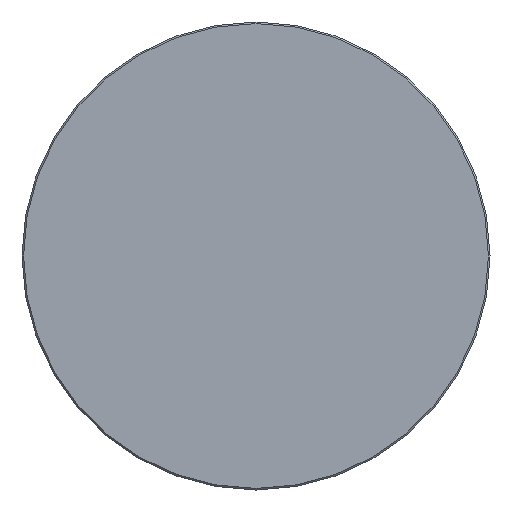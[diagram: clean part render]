
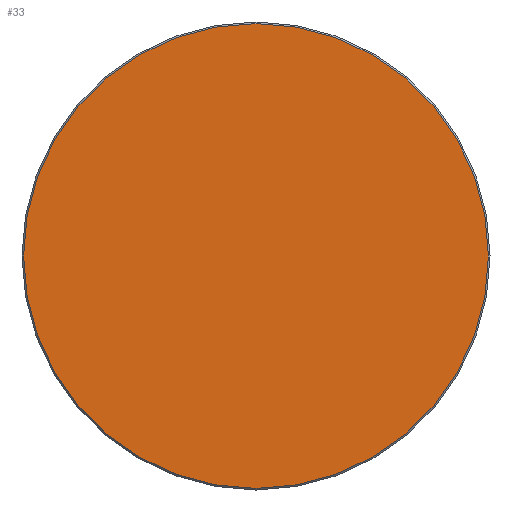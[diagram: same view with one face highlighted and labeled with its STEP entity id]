
A CAD part, left-side view. The second image highlights one B-rep face of the part: STEP entity #33.
In plain terms, the highlighted planar face has unit normal (-1, 0, 0).
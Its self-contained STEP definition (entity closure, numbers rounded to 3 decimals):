
#3 = DIRECTION ( 'NONE',  ( 0., -1., 0. ) ) ;
#33 = ADVANCED_FACE ( 'NONE', ( #518 ), #517, .T. ) ;
#125 = EDGE_CURVE ( 'NONE', #771, #356, #1417, .T. ) ;
#356 = VERTEX_POINT ( 'NONE', #1028 ) ;
#383 = EDGE_LOOP ( 'NONE', ( #441, #436 ) ) ;
#436 = ORIENTED_EDGE ( 'NONE', *, *, #1089, .T. ) ;
#441 = ORIENTED_EDGE ( 'NONE', *, *, #125, .T. ) ;
#517 = PLANE ( 'NONE',  #1288 ) ;
#518 = FACE_OUTER_BOUND ( 'NONE', #383, .T. ) ;
#569 = DIRECTION ( 'NONE',  ( 0., -1., 0. ) ) ;
#571 = DIRECTION ( 'NONE',  ( -1., 0., 0. ) ) ;
#578 = CARTESIAN_POINT ( 'NONE',  ( -251., 0., 0. ) ) ;
#771 = VERTEX_POINT ( 'NONE', #1050 ) ;
#997 = CARTESIAN_POINT ( 'NONE',  ( -251., 0., 0. ) ) ;
#998 = DIRECTION ( 'NONE',  ( -1., 0., 0. ) ) ;
#999 = DIRECTION ( 'NONE',  ( 0., -1., 0. ) ) ;
#1028 = CARTESIAN_POINT ( 'NONE',  ( -251., -29.8, 0. ) ) ;
#1050 = CARTESIAN_POINT ( 'NONE',  ( -251., 29.8, 0. ) ) ;
#1089 = EDGE_CURVE ( 'NONE', #356, #771, #1463, .T. ) ;
#1120 = CARTESIAN_POINT ( 'NONE',  ( -251., 0., 0. ) ) ;
#1121 = DIRECTION ( 'NONE',  ( -1., 0., 0. ) ) ;
#1288 = AXIS2_PLACEMENT_3D ( 'NONE', #578, #571, #569 ) ;
#1417 = CIRCLE ( 'NONE', #1419, 29.8 ) ;
#1419 = AXIS2_PLACEMENT_3D ( 'NONE', #997, #998, #999 ) ;
#1463 = CIRCLE ( 'NONE', #1465, 29.8 ) ;
#1465 = AXIS2_PLACEMENT_3D ( 'NONE', #1120, #1121, #3 ) ;
